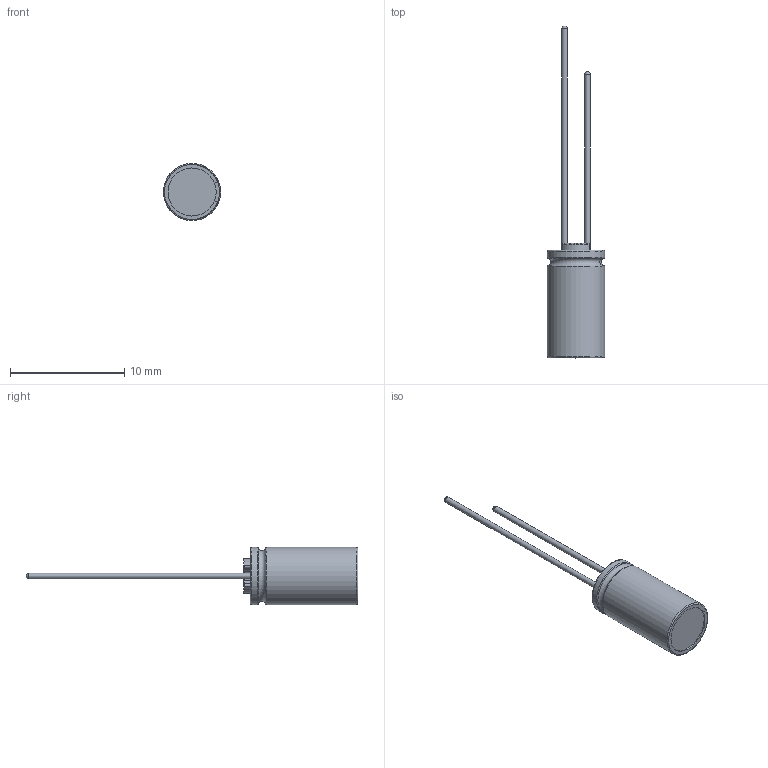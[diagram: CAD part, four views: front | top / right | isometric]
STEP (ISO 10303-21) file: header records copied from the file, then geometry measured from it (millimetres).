
FILE_DESCRIPTION(/* description */ (''),/* implementation_level */ '2;1');
FILE_NAME(/* name */ '5x10_Lead.stp',/* time_stamp */ '2017-09-05T13:37:11+09:00',/* author */ (''),/* organization */ (''),/* preprocessor_version */ 'ST-DEVELOPER v16',/* originating_system */ 'SIEMENS PLM Software NX 11.0',/* authorisation */ '');
FILE_SCHEMA (('AUTOMOTIVE_DESIGN { 1 0 10303 214 3 1 1 1 }'));
Length unit declared in the file: millimetre
Products named in the file (1): 5x10_Lead_0
Bounding box: 4.99 x 29 x 5 mm (x, y, z)
Volume: 189.1 mm3; surface area: 558.4 mm2
Topology: 3 solids, 3 shells, 79 faces, 196 edges, 125 vertices
Faces by surface type: cylinder 32, torus 27, plane 18, sphere 2
Full cylindrical faces by diameter (mm): 0.5 x2, 4.8 x2
Entity records: 2654 total; most frequent: DIRECTION 466, CARTESIAN_POINT 384, ORIENTED_EDGE 368, AXIS2_PLACEMENT_3D 202, EDGE_CURVE 184, CIRCLE 122, VERTEX_POINT 120, EDGE_LOOP 88
